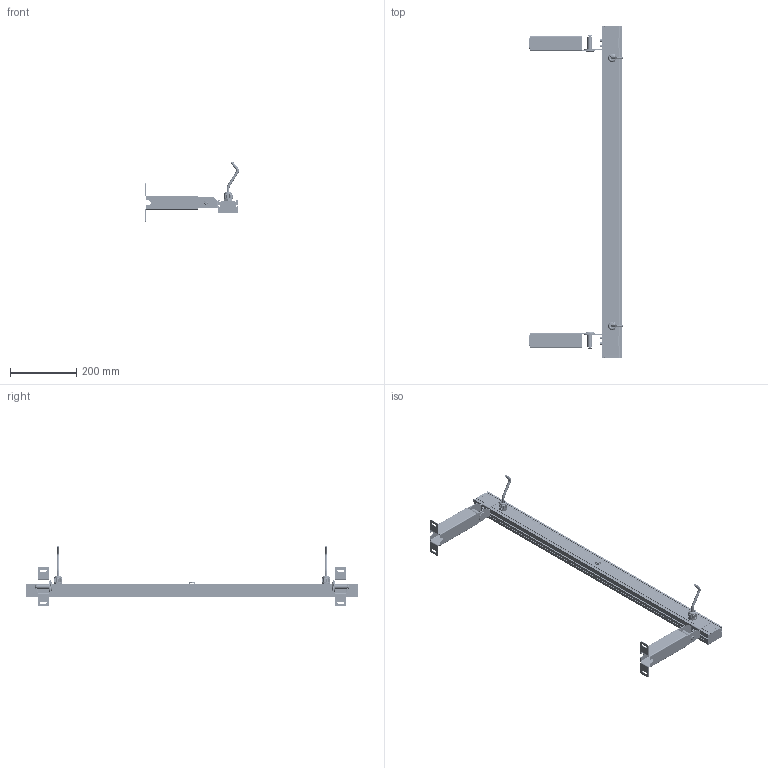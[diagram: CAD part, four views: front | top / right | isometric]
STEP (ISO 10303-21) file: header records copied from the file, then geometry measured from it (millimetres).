
FILE_DESCRIPTION((''),'2;1');
FILE_NAME('A6LE1258_ASM','2023-02-04T',('Administrator'),(''),'CREO PARAMETRIC BY PTC INC, 2015200','CREO PARAMETRIC BY PTC INC, 2015200','');
FILE_SCHEMA(('CONFIG_CONTROL_DESIGN'));
Products named in the file (26): 6LE-C; L-RUBBER_35_1_ANY; 6LE-ZY1; 6L-A1; 6L-A2; 6LK; 6LK-A; ___S_OF__S__37____X__2___B6KA12; SOCKET_HEAD_CAP_SCREW_ISO_ISO_4; HEXAGON_SOCKET_HEAD_CAP_-144696; 6L-A_ASM; 6LK-B; 6LE-B_ASM; M4-6; PG_13_5_5__1; PRODUCT_88784_ANY_1_1; PCB-LED_36_1_ANY; 6LA-1-A24--YITITOUJINGZHIJIA-11; A21; M3-22; 6LA-T1_ASM; 6LA-2-A24--YITITOUJINGZHIJIA-11; 6LA-T2_ASM; M3X6-YT_2; 6LA-12BL; A6LE1258_ASM
Assembly tree (57 placements, depth 3):
  A6LE1258_ASM
    6LE-C
    L-RUBBER_35_1_ANY  x2
    6LE-ZY1  x2
    6L-A_ASM
      6L-A1
      6L-A2
      6LK
      6LK-A
      ___S_OF__S__37____X__2___B6KA12
      SOCKET_HEAD_CAP_SCREW_ISO_ISO_4
      HEXAGON_SOCKET_HEAD_CAP_-144696  x2
    6LE-B_ASM
      6L-A1
      6L-A2
      6LK
      6LK-B
      HEXAGON_SOCKET_HEAD_CAP_-144696  x2
      ___S_OF__S__37____X__2___B6KA12
      SOCKET_HEAD_CAP_SCREW_ISO_ISO_4
    M4-6  x8
    PG_13_5_5__1  x2
    PRODUCT_88784_ANY_1_1
    PCB-LED_36_1_ANY  x2
    6LA-T1_ASM  x2
      6LA-1-A24--YITITOUJINGZHIJIA-11
      A21
      M3-22
    6LA-T2_ASM  x2
      6LA-2-A24--YITITOUJINGZHIJIA-11
      A21
      M3-22
    M3X6-YT_2  x2
    6LA-12BL
Bounding box: 282.52 x 1001 x 183.92 mm (x, y, z)
Volume: 1387889.8 mm3; surface area: 854516.4 mm2
Topology: 67 solids, 67 shells, 9368 faces, 26916 edges, 17908 vertices
Faces by surface type: plane 6182, cylinder 1250, cone 546, extrusion 480, bspline 456, torus 220, revolution 168, sphere 66
Entity records: 174191 total; most frequent: CARTESIAN_POINT 51906, ORIENTED_EDGE 27140, DIRECTION 22782, EDGE_CURVE 13570, VERTEX_POINT 9049, VECTOR 8892, LINE 8652, AXIS2_PLACEMENT_3D 6903
